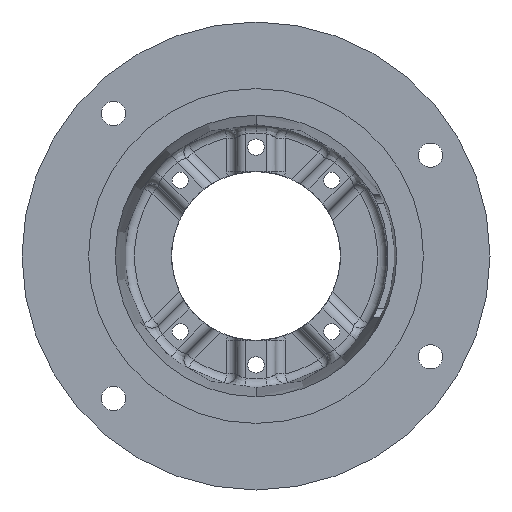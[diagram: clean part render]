
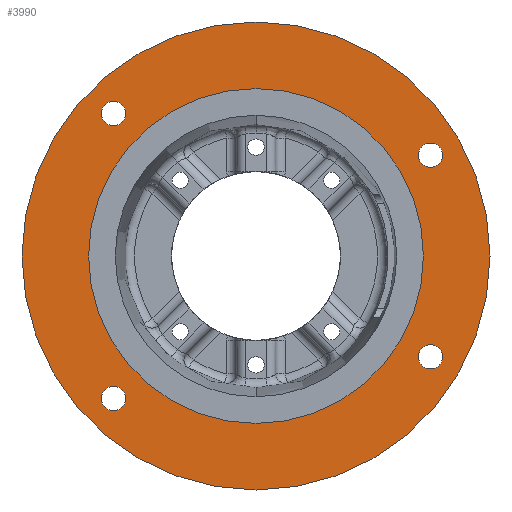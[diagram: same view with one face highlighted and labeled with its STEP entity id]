
A CAD part, front view. The second image highlights one B-rep face of the part: STEP entity #3990.
In plain terms, the highlighted planar face has unit normal (0, -1, 0).
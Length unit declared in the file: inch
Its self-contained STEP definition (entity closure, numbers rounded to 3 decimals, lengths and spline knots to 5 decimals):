
#217 = CARTESIAN_POINT ( 'NONE',  ( 0., 0., 0. ) ) ;
#221 = CARTESIAN_POINT ( 'NONE',  ( -2.74004, 0., -2.97441 ) ) ;
#310 = FACE_OUTER_BOUND ( 'NONE', #6332, .T. ) ;
#318 = VERTEX_POINT ( 'NONE', #4651 ) ;
#345 = CARTESIAN_POINT ( 'NONE',  ( 0., 0., 3.2195 ) ) ;
#368 = CARTESIAN_POINT ( 'NONE',  ( 0., 0., 0. ) ) ;
#374 = PLANE ( 'NONE',  #2643 ) ;
#421 = CARTESIAN_POINT ( 'NONE',  ( 0., 0., 4.5 ) ) ;
#475 = VERTEX_POINT ( 'NONE', #772 ) ;
#495 = ORIENTED_EDGE ( 'NONE', *, *, #2209, .F. ) ;
#548 = VERTEX_POINT ( 'NONE', #2628 ) ;
#652 = CARTESIAN_POINT ( 'NONE',  ( 3.35585, 0., -1.9375 ) ) ;
#694 = AXIS2_PLACEMENT_3D ( 'NONE', #217, #3766, #726 ) ;
#726 = DIRECTION ( 'NONE',  ( 0., 0., -1. ) ) ;
#772 = CARTESIAN_POINT ( 'NONE',  ( -2.74004, 0., -2.50566 ) ) ;
#780 = CIRCLE ( 'NONE', #3409, 0.23438 ) ;
#793 = CARTESIAN_POINT ( 'NONE',  ( 3.35585, 0., 1.9375 ) ) ;
#871 = DIRECTION ( 'NONE',  ( 0., 0., -1. ) ) ;
#941 = EDGE_LOOP ( 'NONE', ( #995, #1166 ) ) ;
#995 = ORIENTED_EDGE ( 'NONE', *, *, #2627, .F. ) ;
#1005 = DIRECTION ( 'NONE',  ( 0., -1., 0. ) ) ;
#1039 = VERTEX_POINT ( 'NONE', #1046 ) ;
#1046 = CARTESIAN_POINT ( 'NONE',  ( 3.35585, 0., -1.70312 ) ) ;
#1110 = AXIS2_PLACEMENT_3D ( 'NONE', #652, #4192, #1158 ) ;
#1158 = DIRECTION ( 'NONE',  ( 0., 0., -1. ) ) ;
#1166 = ORIENTED_EDGE ( 'NONE', *, *, #1637, .F. ) ;
#1209 = VERTEX_POINT ( 'NONE', #5465 ) ;
#1220 = ORIENTED_EDGE ( 'NONE', *, *, #1778, .F. ) ;
#1238 = AXIS2_PLACEMENT_3D ( 'NONE', #4047, #1005, #4555 ) ;
#1249 = DIRECTION ( 'NONE',  ( 0., -1., 0. ) ) ;
#1296 = DIRECTION ( 'NONE',  ( 0., 0., -1. ) ) ;
#1362 = CARTESIAN_POINT ( 'NONE',  ( -2.74004, 0., -2.74004 ) ) ;
#1410 = CARTESIAN_POINT ( 'NONE',  ( 0., 0., 0. ) ) ;
#1415 = EDGE_CURVE ( 'NONE', #6135, #3366, #4849, .T. ) ;
#1470 = FACE_BOUND ( 'NONE', #941, .T. ) ;
#1613 = VERTEX_POINT ( 'NONE', #345 ) ;
#1637 = EDGE_CURVE ( 'NONE', #1613, #1209, #4373, .T. ) ;
#1663 = CIRCLE ( 'NONE', #2344, 0.23438 ) ;
#1693 = EDGE_CURVE ( 'NONE', #2132, #318, #2696, .T. ) ;
#1778 = EDGE_CURVE ( 'NONE', #5379, #548, #3752, .T. ) ;
#1791 = CIRCLE ( 'NONE', #5778, 0.23437 ) ;
#1844 = DIRECTION ( 'NONE',  ( 0., -1., 0. ) ) ;
#1871 = DIRECTION ( 'NONE',  ( 0., 0., -1. ) ) ;
#1886 = DIRECTION ( 'NONE',  ( 0., 1., 0. ) ) ;
#1926 = DIRECTION ( 'NONE',  ( 0., 0., -1. ) ) ;
#1965 = EDGE_LOOP ( 'NONE', ( #3914, #4074 ) ) ;
#2132 = VERTEX_POINT ( 'NONE', #6338 ) ;
#2209 = EDGE_CURVE ( 'NONE', #5152, #475, #4839, .T. ) ;
#2338 = EDGE_CURVE ( 'NONE', #3039, #1039, #1663, .T. ) ;
#2344 = AXIS2_PLACEMENT_3D ( 'NONE', #2511, #6046, #3006 ) ;
#2511 = CARTESIAN_POINT ( 'NONE',  ( 3.35585, 0., -1.9375 ) ) ;
#2534 = CIRCLE ( 'NONE', #1110, 0.23438 ) ;
#2596 = AXIS2_PLACEMENT_3D ( 'NONE', #1410, #4963, #1926 ) ;
#2627 = EDGE_CURVE ( 'NONE', #1209, #1613, #5698, .T. ) ;
#2628 = CARTESIAN_POINT ( 'NONE',  ( 3.35585, 0., 2.17188 ) ) ;
#2643 = AXIS2_PLACEMENT_3D ( 'NONE', #4927, #1886, #5428 ) ;
#2696 = CIRCLE ( 'NONE', #6102, 0.23438 ) ;
#2754 = EDGE_CURVE ( 'NONE', #318, #2132, #4214, .T. ) ;
#2787 = EDGE_CURVE ( 'NONE', #1039, #3039, #2534, .T. ) ;
#2832 = FACE_BOUND ( 'NONE', #1965, .T. ) ;
#2833 = DIRECTION ( 'NONE',  ( 0., -1., 0. ) ) ;
#2888 = ORIENTED_EDGE ( 'NONE', *, *, #2754, .F. ) ;
#2973 = FACE_BOUND ( 'NONE', #5688, .T. ) ;
#2996 = CARTESIAN_POINT ( 'NONE',  ( -2.74004, 0., 2.74004 ) ) ;
#3002 = ORIENTED_EDGE ( 'NONE', *, *, #4707, .F. ) ;
#3006 = DIRECTION ( 'NONE',  ( 0., 0., -1. ) ) ;
#3039 = VERTEX_POINT ( 'NONE', #4670 ) ;
#3366 = VERTEX_POINT ( 'NONE', #421 ) ;
#3393 = AXIS2_PLACEMENT_3D ( 'NONE', #368, #3913, #871 ) ;
#3409 = AXIS2_PLACEMENT_3D ( 'NONE', #793, #4333, #1296 ) ;
#3474 = EDGE_LOOP ( 'NONE', ( #495, #4856 ) ) ;
#3515 = DIRECTION ( 'NONE',  ( 0., 0., -1. ) ) ;
#3752 = CIRCLE ( 'NONE', #1238, 0.23438 ) ;
#3766 = DIRECTION ( 'NONE',  ( 0., -1., 0. ) ) ;
#3913 = DIRECTION ( 'NONE',  ( 0., -1., 0. ) ) ;
#3914 = ORIENTED_EDGE ( 'NONE', *, *, #2338, .F. ) ;
#3959 = AXIS2_PLACEMENT_3D ( 'NONE', #4283, #1249, #4797 ) ;
#3990 = ADVANCED_FACE ( 'NONE', ( #4186, #2832, #5511, #2973, #1470, #310 ), #374, .F. ) ;
#4014 = CIRCLE ( 'NONE', #2596, 4.5 ) ;
#4047 = CARTESIAN_POINT ( 'NONE',  ( 3.35585, 0., 1.9375 ) ) ;
#4074 = ORIENTED_EDGE ( 'NONE', *, *, #2787, .F. ) ;
#4186 = FACE_BOUND ( 'NONE', #5854, .T. ) ;
#4192 = DIRECTION ( 'NONE',  ( 0., -1., 0. ) ) ;
#4214 = CIRCLE ( 'NONE', #5640, 0.23438 ) ;
#4283 = CARTESIAN_POINT ( 'NONE',  ( 0., 0., 0. ) ) ;
#4333 = DIRECTION ( 'NONE',  ( 0., -1., 0. ) ) ;
#4373 = CIRCLE ( 'NONE', #3393, 3.2195 ) ;
#4472 = CARTESIAN_POINT ( 'NONE',  ( 3.35585, 0., 1.70313 ) ) ;
#4555 = DIRECTION ( 'NONE',  ( 0., 0., -1. ) ) ;
#4651 = CARTESIAN_POINT ( 'NONE',  ( -2.74004, 0., 2.50566 ) ) ;
#4670 = CARTESIAN_POINT ( 'NONE',  ( 3.35585, 0., -2.17187 ) ) ;
#4707 = EDGE_CURVE ( 'NONE', #548, #5379, #780, .T. ) ;
#4794 = EDGE_CURVE ( 'NONE', #475, #5152, #1791, .T. ) ;
#4797 = DIRECTION ( 'NONE',  ( 0., 0., -1. ) ) ;
#4839 = CIRCLE ( 'NONE', #5505, 0.23437 ) ;
#4846 = CARTESIAN_POINT ( 'NONE',  ( 0., 0., -4.5 ) ) ;
#4849 = CIRCLE ( 'NONE', #694, 4.5 ) ;
#4856 = ORIENTED_EDGE ( 'NONE', *, *, #4794, .F. ) ;
#4879 = EDGE_CURVE ( 'NONE', #3366, #6135, #4014, .T. ) ;
#4883 = CARTESIAN_POINT ( 'NONE',  ( -2.74004, 0., -2.74004 ) ) ;
#4904 = DIRECTION ( 'NONE',  ( 0., -1., 0. ) ) ;
#4927 = CARTESIAN_POINT ( 'NONE',  ( -4.5, 0., 0. ) ) ;
#4963 = DIRECTION ( 'NONE',  ( 0., -1., 0. ) ) ;
#5152 = VERTEX_POINT ( 'NONE', #221 ) ;
#5379 = VERTEX_POINT ( 'NONE', #4472 ) ;
#5380 = DIRECTION ( 'NONE',  ( 0., 0., -1. ) ) ;
#5428 = DIRECTION ( 'NONE',  ( 0., 0., 1. ) ) ;
#5465 = CARTESIAN_POINT ( 'NONE',  ( 0., 0., -3.2195 ) ) ;
#5505 = AXIS2_PLACEMENT_3D ( 'NONE', #1362, #4904, #1871 ) ;
#5511 = FACE_BOUND ( 'NONE', #3474, .T. ) ;
#5640 = AXIS2_PLACEMENT_3D ( 'NONE', #2996, #6536, #3515 ) ;
#5688 = EDGE_LOOP ( 'NONE', ( #2888, #5785 ) ) ;
#5698 = CIRCLE ( 'NONE', #3959, 3.2195 ) ;
#5778 = AXIS2_PLACEMENT_3D ( 'NONE', #4883, #1844, #5380 ) ;
#5785 = ORIENTED_EDGE ( 'NONE', *, *, #1693, .F. ) ;
#5854 = EDGE_LOOP ( 'NONE', ( #1220, #3002 ) ) ;
#5858 = CARTESIAN_POINT ( 'NONE',  ( -2.74004, 0., 2.74004 ) ) ;
#5953 = ORIENTED_EDGE ( 'NONE', *, *, #1415, .T. ) ;
#6046 = DIRECTION ( 'NONE',  ( 0., -1., 0. ) ) ;
#6102 = AXIS2_PLACEMENT_3D ( 'NONE', #5858, #2833, #6375 ) ;
#6135 = VERTEX_POINT ( 'NONE', #4846 ) ;
#6172 = ORIENTED_EDGE ( 'NONE', *, *, #4879, .T. ) ;
#6332 = EDGE_LOOP ( 'NONE', ( #5953, #6172 ) ) ;
#6338 = CARTESIAN_POINT ( 'NONE',  ( -2.74004, 0., 2.97441 ) ) ;
#6375 = DIRECTION ( 'NONE',  ( 0., 0., -1. ) ) ;
#6536 = DIRECTION ( 'NONE',  ( 0., -1., 0. ) ) ;
